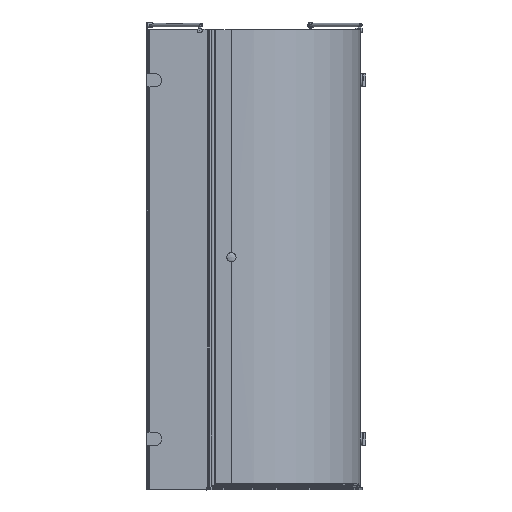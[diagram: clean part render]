
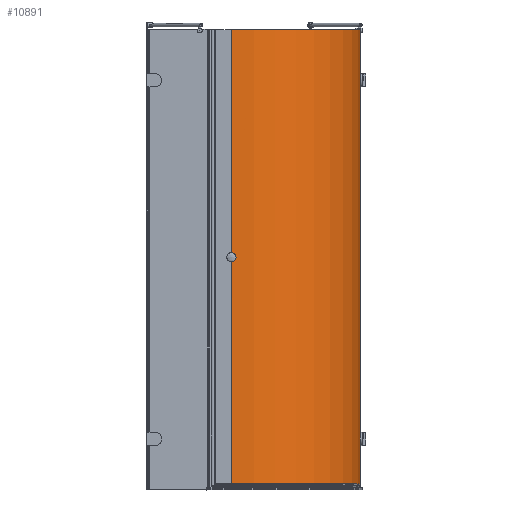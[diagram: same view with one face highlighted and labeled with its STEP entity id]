
A CAD part, front view. The second image highlights one B-rep face of the part: STEP entity #10891.
In plain terms, the highlighted cylindrical face has radius 530 mm (diameter 1060 mm), a partial arc.
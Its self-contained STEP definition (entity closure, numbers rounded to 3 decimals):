
#140=LINE($,#15350,#1049);
#141=LINE($,#15352,#1050);
#145=LINE($,#15362,#1054);
#962=LINE($,#18858,#1871);
#963=LINE($,#18861,#1872);
#1049=VECTOR($,#12227,210.);
#1050=VECTOR($,#12228,1480.);
#1054=VECTOR($,#12236,185.4);
#1871=VECTOR($,#14965,929.9);
#1872=VECTOR($,#14968,934.5);
#1935=B_SPLINE_CURVE_WITH_KNOTS($,3,(#18864,#18865,#18866,#18867,#18868,
#18869,#18870,#18871,#18872,#18873,#18874,#18875,#18876,#18877,#18878,#18879,
#18880,#18881,#18882,#18883),.UNSPECIFIED.,.F.,.F.,(4,2,2,2,2,2,2,2,2,4),
(0.,0.214,0.432,0.65,0.868,
1.078,1.284,1.492,1.61,1.728),
 .UNSPECIFIED.);
#2124=CYLINDRICAL_SURFACE($,#11966,530.);
#2828=FACE_OUTER_BOUND($,#3498,.T.);
#3498=EDGE_LOOP($,(#9312,#9313,#9314,#9315,#9316,#9317,#9318,#9319));
#3933=CIRCLE($,#11795,530.);
#4010=CIRCLE($,#11967,530.);
#4075=VERTEX_POINT($,#15273);
#4098=VERTEX_POINT($,#15343);
#4101=VERTEX_POINT($,#15348);
#4102=VERTEX_POINT($,#15351);
#4836=VERTEX_POINT($,#18299);
#4897=VERTEX_POINT($,#18524);
#4977=VERTEX_POINT($,#18857);
#4978=VERTEX_POINT($,#18859);
#5103=EDGE_CURVE($,#4101,#4075,#140,.T.);
#5104=EDGE_CURVE($,#4075,#4102,#141,.T.);
#5110=EDGE_CURVE($,#4102,#4098,#145,.T.);
#6267=EDGE_CURVE($,#4098,#4897,#3933,.T.);
#6435=EDGE_CURVE($,#4897,#4977,#962,.T.);
#6437=EDGE_CURVE($,#4978,#4836,#963,.T.);
#6438=EDGE_CURVE($,#4101,#4836,#4010,.T.);
#6439=EDGE_CURVE($,#4978,#4977,#1935,.T.);
#9312=ORIENTED_EDGE($,*,*,#6267,.F.);
#9313=ORIENTED_EDGE($,*,*,#5110,.F.);
#9314=ORIENTED_EDGE($,*,*,#5104,.F.);
#9315=ORIENTED_EDGE($,*,*,#5103,.F.);
#9316=ORIENTED_EDGE($,*,*,#6438,.T.);
#9317=ORIENTED_EDGE($,*,*,#6437,.F.);
#9318=ORIENTED_EDGE($,*,*,#6439,.T.);
#9319=ORIENTED_EDGE($,*,*,#6435,.F.);
#10891=ADVANCED_FACE($,(#2828),#2124,.T.);
#11795=AXIS2_PLACEMENT_3D($,#18525,#14542,#14543);
#11966=AXIS2_PLACEMENT_3D($,#18862,#14969,#14970);
#11967=AXIS2_PLACEMENT_3D($,#18863,#14971,#14972);
#12227=DIRECTION($,(0.,0.,-1.));
#12228=DIRECTION($,(0.,0.,-1.));
#12236=DIRECTION($,(0.,0.,-1.));
#14542=DIRECTION('center_axis',(0.,0.,
-1.));
#14543=DIRECTION('ref_axis',(1.,0.,0.));
#14965=DIRECTION($,(0.,0.,1.));
#14968=DIRECTION($,(0.,0.,1.));
#14969=DIRECTION('center_axis',(0.,0.,
-1.));
#14970=DIRECTION('ref_axis',(1.,0.,0.));
#14971=DIRECTION('center_axis',(0.,0.,
-1.));
#14972=DIRECTION('ref_axis',(1.,0.,0.));
#15273=CARTESIAN_POINT('',(1331.733,395.956,1175.344));
#15343=CARTESIAN_POINT('',(1331.733,395.956,-490.056));
#15348=CARTESIAN_POINT('',(1331.733,395.956,1385.344));
#15350=CARTESIAN_POINT($,(1331.733,395.956,915.344));
#15351=CARTESIAN_POINT('',(1331.733,395.956,-304.656));
#15352=CARTESIAN_POINT($,(1331.733,395.956,915.344));
#15362=CARTESIAN_POINT($,(1331.733,395.956,915.344));
#18299=CARTESIAN_POINT('',(801.733,-134.044,1385.344));
#18524=CARTESIAN_POINT('',(801.733,-134.044,-490.056));
#18525=CARTESIAN_POINT('Origin',(801.733,395.956,-490.056));
#18857=CARTESIAN_POINT('',(801.733,-134.044,439.844));
#18858=CARTESIAN_POINT($,(801.733,-134.044,-24.656));
#18859=CARTESIAN_POINT('',(801.733,-134.044,450.844));
#18861=CARTESIAN_POINT($,(801.733,-134.044,448.094));
#18862=CARTESIAN_POINT('Origin',(801.733,395.956,445.344));
#18863=CARTESIAN_POINT('Origin',(801.733,395.956,1385.344));
#18864=CARTESIAN_POINT('Ctrl Pts',(801.733,-134.044,450.844));
#18865=CARTESIAN_POINT('Ctrl Pts',(802.446,-134.044,450.845));
#18866=CARTESIAN_POINT('Ctrl Pts',(803.154,-134.043,450.706));
#18867=CARTESIAN_POINT('Ctrl Pts',(804.493,-134.037,450.158));
#18868=CARTESIAN_POINT('Ctrl Pts',(805.107,-134.034,449.749));
#18869=CARTESIAN_POINT('Ctrl Pts',(806.138,-134.026,448.718));
#18870=CARTESIAN_POINT('Ctrl Pts',(806.545,-134.022,448.106));
#18871=CARTESIAN_POINT('Ctrl Pts',(807.097,-134.017,446.76));
#18872=CARTESIAN_POINT('Ctrl Pts',(807.238,-134.015,446.038));
#18873=CARTESIAN_POINT('Ctrl Pts',(807.229,-134.016,444.606));
#18874=CARTESIAN_POINT('Ctrl Pts',(807.089,-134.017,443.911));
#18875=CARTESIAN_POINT('Ctrl Pts',(806.562,-134.022,442.624));
#18876=CARTESIAN_POINT('Ctrl Pts',(806.185,-134.026,442.043));
#18877=CARTESIAN_POINT('Ctrl Pts',(805.23,-134.033,441.043));
#18878=CARTESIAN_POINT('Ctrl Pts',(804.658,-134.036,440.635));
#18879=CARTESIAN_POINT('Ctrl Pts',(803.665,-134.041,440.18));
#18880=CARTESIAN_POINT('Ctrl Pts',(803.289,-134.042,440.054));
#18881=CARTESIAN_POINT('Ctrl Pts',(802.518,-134.044,439.887));
#18882=CARTESIAN_POINT('Ctrl Pts',(802.126,-134.044,439.844));
#18883=CARTESIAN_POINT('Ctrl Pts',(801.733,-134.044,439.844));
